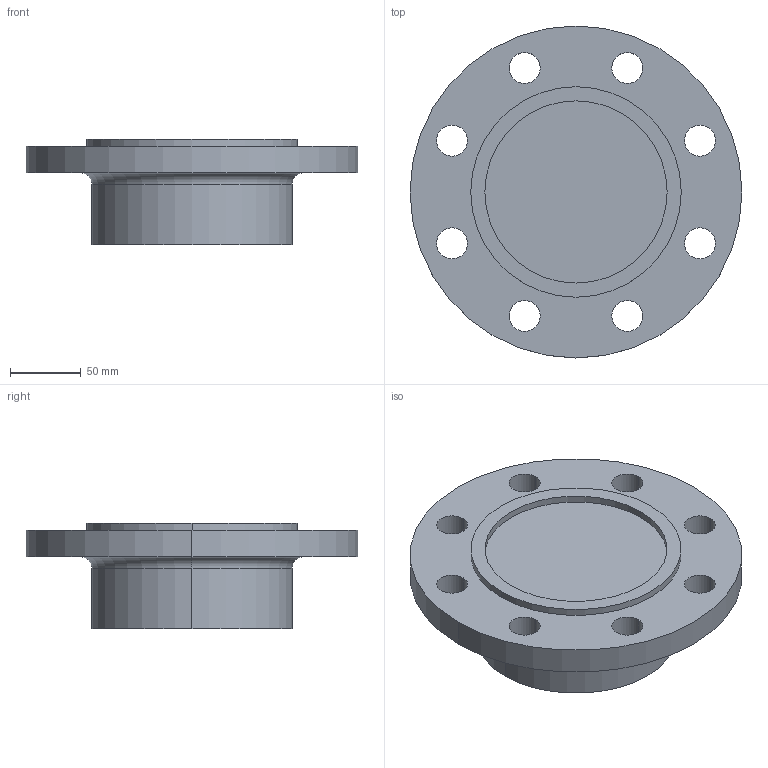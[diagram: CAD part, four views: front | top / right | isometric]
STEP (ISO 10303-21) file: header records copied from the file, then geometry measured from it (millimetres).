
FILE_DESCRIPTION (( 'STEP AP214' ), '1' );
FILE_NAME ('PN40 DN100 Type 21(i) - Type C Face.STEP', '2019-01-02T00:16:22', ( '' ), ( '' ), 'SwSTEP 2.0', 'SolidWorks 2019', '' );
FILE_SCHEMA (( 'AUTOMOTIVE_DESIGN' ));
Length unit declared in the file: millimetre
Products named in the file (1): PN40 DN100 Type 21(i) - Type C Face
Bounding box: 235 x 235 x 75 mm (x, y, z)
Volume: 1602109 mm3; surface area: 130812.7 mm2
Topology: 1 solids, 1 shells, 31 faces, 76 edges, 50 vertices
Faces by surface type: cylinder 24, plane 5, torus 2
Entity records: 1012 total; most frequent: DIRECTION 192, CARTESIAN_POINT 158, ORIENTED_EDGE 152, AXIS2_PLACEMENT_3D 84, EDGE_CURVE 76, CIRCLE 52, VERTEX_POINT 50, EDGE_LOOP 50
